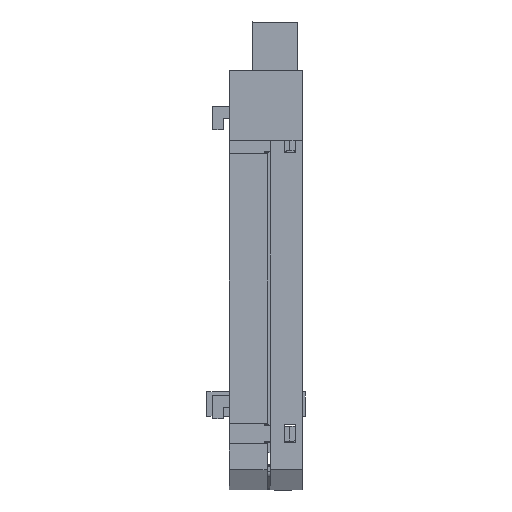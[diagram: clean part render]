
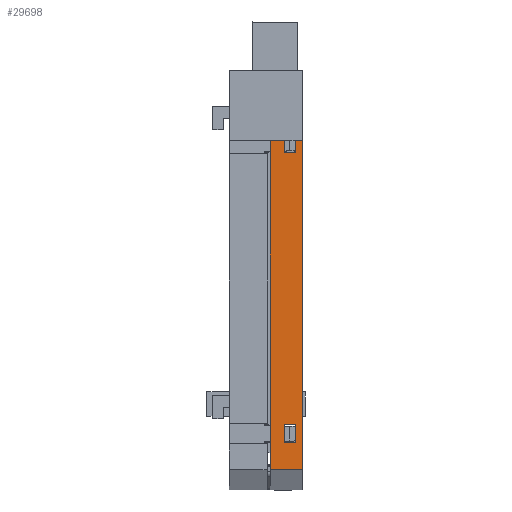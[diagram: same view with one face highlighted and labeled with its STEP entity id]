
A CAD part, front view. The second image highlights one B-rep face of the part: STEP entity #29698.
In plain terms, the highlighted planar face has unit normal (0, -1, 0).
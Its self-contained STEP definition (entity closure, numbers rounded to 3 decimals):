
#19 = VERTEX_POINT ( 'NONE', #6592 ) ;
#372 = VERTEX_POINT ( 'NONE', #20000 ) ;
#564 = EDGE_CURVE ( 'NONE', #24817, #23648, #20607, .T. ) ;
#904 = FACE_BOUND ( 'NONE', #9598, .T. ) ;
#1129 = DIRECTION ( 'NONE',  ( -1., 0., 0. ) ) ;
#1323 = EDGE_LOOP ( 'NONE', ( #9790, #12652, #9655, #2367 ) ) ;
#1338 = CARTESIAN_POINT ( 'NONE',  ( 5.5, 0., 0. ) ) ;
#2367 = ORIENTED_EDGE ( 'NONE', *, *, #18209, .T. ) ;
#2540 = EDGE_LOOP ( 'NONE', ( #23659, #29882, #29054, #11742 ) ) ;
#2645 = LINE ( 'NONE', #1338, #10525 ) ;
#2820 = CARTESIAN_POINT ( 'NONE',  ( 4.4, 0., -60.645 ) ) ;
#3163 = EDGE_CURVE ( 'NONE', #31360, #19973, #34191, .T. ) ;
#3869 = DIRECTION ( 'NONE',  ( -1., 0., 0. ) ) ;
#4239 = CARTESIAN_POINT ( 'NONE',  ( 0., 0., 0. ) ) ;
#4270 = LINE ( 'NONE', #26448, #10467 ) ;
#4315 = LINE ( 'NONE', #18889, #18375 ) ;
#4517 = VERTEX_POINT ( 'NONE', #15841 ) ;
#4713 = CARTESIAN_POINT ( 'NONE',  ( 2.4, 0., -60.645 ) ) ;
#5339 = DIRECTION ( 'NONE',  ( -1., 0., 0. ) ) ;
#5726 = DIRECTION ( 'NONE',  ( 0., 0., -1. ) ) ;
#6196 = VECTOR ( 'NONE', #19842, 1000. ) ;
#6506 = CARTESIAN_POINT ( 'NONE',  ( 2.4, 0., -7.845 ) ) ;
#6565 = VECTOR ( 'NONE', #34110, 1000. ) ;
#6592 = CARTESIAN_POINT ( 'NONE',  ( 5.5, 0., -65.25 ) ) ;
#6686 = CARTESIAN_POINT ( 'NONE',  ( 2.4, 0., -60.645 ) ) ;
#6715 = VECTOR ( 'NONE', #25465, 1000. ) ;
#7124 = VERTEX_POINT ( 'NONE', #27695 ) ;
#7208 = EDGE_CURVE ( 'NONE', #9484, #7124, #23780, .T. ) ;
#8582 = DIRECTION ( 'NONE',  ( 0., 1., 0. ) ) ;
#9107 = CARTESIAN_POINT ( 'NONE',  ( 2.4, 0., -10.945 ) ) ;
#9157 = CARTESIAN_POINT ( 'NONE',  ( 2.4, 0., -10.945 ) ) ;
#9484 = VERTEX_POINT ( 'NONE', #14943 ) ;
#9557 = EDGE_CURVE ( 'NONE', #27322, #372, #23023, .T. ) ;
#9598 = EDGE_LOOP ( 'NONE', ( #32735, #11250, #11655, #15828 ) ) ;
#9655 = ORIENTED_EDGE ( 'NONE', *, *, #29486, .F. ) ;
#9790 = ORIENTED_EDGE ( 'NONE', *, *, #9557, .T. ) ;
#10467 = VECTOR ( 'NONE', #5339, 1000. ) ;
#10525 = VECTOR ( 'NONE', #3869, 1000. ) ;
#11250 = ORIENTED_EDGE ( 'NONE', *, *, #30402, .T. ) ;
#11655 = ORIENTED_EDGE ( 'NONE', *, *, #7208, .T. ) ;
#11681 = CARTESIAN_POINT ( 'NONE',  ( 4.4, 0., -10.945 ) ) ;
#11742 = ORIENTED_EDGE ( 'NONE', *, *, #564, .T. ) ;
#12652 = ORIENTED_EDGE ( 'NONE', *, *, #24550, .F. ) ;
#13734 = VERTEX_POINT ( 'NONE', #4713 ) ;
#14002 = EDGE_CURVE ( 'NONE', #19973, #24817, #4315, .T. ) ;
#14487 = DIRECTION ( 'NONE',  ( 0., 0., 1. ) ) ;
#14937 = FACE_OUTER_BOUND ( 'NONE', #1323, .T. ) ;
#14943 = CARTESIAN_POINT ( 'NONE',  ( 2.4, 0., -57.545 ) ) ;
#15361 = VECTOR ( 'NONE', #14487, 1000. ) ;
#15740 = DIRECTION ( 'NONE',  ( 1., 0., 0. ) ) ;
#15754 = FACE_BOUND ( 'NONE', #2540, .T. ) ;
#15828 = ORIENTED_EDGE ( 'NONE', *, *, #17392, .T. ) ;
#15841 = CARTESIAN_POINT ( 'NONE',  ( 5.5, 0., 0. ) ) ;
#17062 = LINE ( 'NONE', #32791, #30314 ) ;
#17218 = VECTOR ( 'NONE', #18675, 1000. ) ;
#17392 = EDGE_CURVE ( 'NONE', #7124, #30666, #18062, .T. ) ;
#18062 = LINE ( 'NONE', #2820, #17218 ) ;
#18209 = EDGE_CURVE ( 'NONE', #4517, #27322, #2645, .T. ) ;
#18375 = VECTOR ( 'NONE', #5726, 1000. ) ;
#18675 = DIRECTION ( 'NONE',  ( 0., 0., -1. ) ) ;
#18889 = CARTESIAN_POINT ( 'NONE',  ( 4.4, 0., -10.945 ) ) ;
#19105 = CARTESIAN_POINT ( 'NONE',  ( 5.5, 0., 0. ) ) ;
#19378 = CARTESIAN_POINT ( 'NONE',  ( 4.4, 0., -60.645 ) ) ;
#19671 = EDGE_CURVE ( 'NONE', #30666, #13734, #17062, .T. ) ;
#19842 = DIRECTION ( 'NONE',  ( 0., 0., 1. ) ) ;
#19973 = VERTEX_POINT ( 'NONE', #20608 ) ;
#20000 = CARTESIAN_POINT ( 'NONE',  ( 0., 0., -65.25 ) ) ;
#20054 = CARTESIAN_POINT ( 'NONE',  ( 5.5, 0., 0. ) ) ;
#20187 = EDGE_CURVE ( 'NONE', #23648, #31360, #22369, .T. ) ;
#20607 = LINE ( 'NONE', #31429, #6565 ) ;
#20608 = CARTESIAN_POINT ( 'NONE',  ( 4.4, 0., -7.845 ) ) ;
#20754 = LINE ( 'NONE', #20054, #6715 ) ;
#22216 = VECTOR ( 'NONE', #33696, 1000. ) ;
#22369 = LINE ( 'NONE', #9157, #15361 ) ;
#22775 = DIRECTION ( 'NONE',  ( 1., 0., 0. ) ) ;
#22994 = CARTESIAN_POINT ( 'NONE',  ( 0., 0., 0. ) ) ;
#23023 = LINE ( 'NONE', #22994, #22216 ) ;
#23648 = VERTEX_POINT ( 'NONE', #9107 ) ;
#23659 = ORIENTED_EDGE ( 'NONE', *, *, #20187, .T. ) ;
#23780 = LINE ( 'NONE', #28049, #30857 ) ;
#24550 = EDGE_CURVE ( 'NONE', #19, #372, #4270, .T. ) ;
#24817 = VERTEX_POINT ( 'NONE', #11681 ) ;
#25465 = DIRECTION ( 'NONE',  ( 0., 0., -1. ) ) ;
#26448 = CARTESIAN_POINT ( 'NONE',  ( 5.5, 0., -65.25 ) ) ;
#27081 = DIRECTION ( 'NONE',  ( 0., 0., 1. ) ) ;
#27132 = VECTOR ( 'NONE', #15740, 1000. ) ;
#27291 = LINE ( 'NONE', #6686, #6196 ) ;
#27322 = VERTEX_POINT ( 'NONE', #4239 ) ;
#27695 = CARTESIAN_POINT ( 'NONE',  ( 4.4, 0., -57.545 ) ) ;
#28049 = CARTESIAN_POINT ( 'NONE',  ( 2.4, 0., -57.545 ) ) ;
#29054 = ORIENTED_EDGE ( 'NONE', *, *, #14002, .T. ) ;
#29486 = EDGE_CURVE ( 'NONE', #4517, #19, #20754, .T. ) ;
#29661 = PLANE ( 'NONE',  #30450 ) ;
#29698 = ADVANCED_FACE ( 'NONE', ( #15754, #904, #14937 ), #29661, .F. ) ;
#29882 = ORIENTED_EDGE ( 'NONE', *, *, #3163, .T. ) ;
#30314 = VECTOR ( 'NONE', #1129, 1000. ) ;
#30402 = EDGE_CURVE ( 'NONE', #13734, #9484, #27291, .T. ) ;
#30450 = AXIS2_PLACEMENT_3D ( 'NONE', #19105, #8582, #27081 ) ;
#30666 = VERTEX_POINT ( 'NONE', #19378 ) ;
#30857 = VECTOR ( 'NONE', #22775, 1000. ) ;
#31360 = VERTEX_POINT ( 'NONE', #6506 ) ;
#31429 = CARTESIAN_POINT ( 'NONE',  ( 2.4, 0., -10.945 ) ) ;
#31613 = CARTESIAN_POINT ( 'NONE',  ( 2.4, 0., -7.845 ) ) ;
#32735 = ORIENTED_EDGE ( 'NONE', *, *, #19671, .T. ) ;
#32791 = CARTESIAN_POINT ( 'NONE',  ( 2.4, 0., -60.645 ) ) ;
#33696 = DIRECTION ( 'NONE',  ( 0., 0., -1. ) ) ;
#34110 = DIRECTION ( 'NONE',  ( -1., 0., 0. ) ) ;
#34191 = LINE ( 'NONE', #31613, #27132 ) ;
